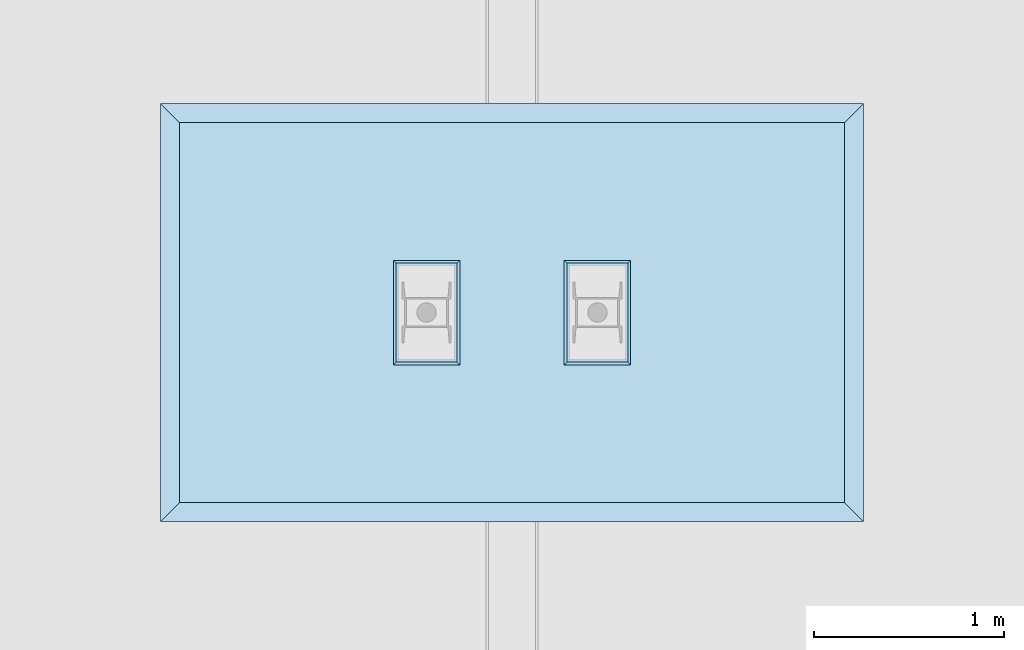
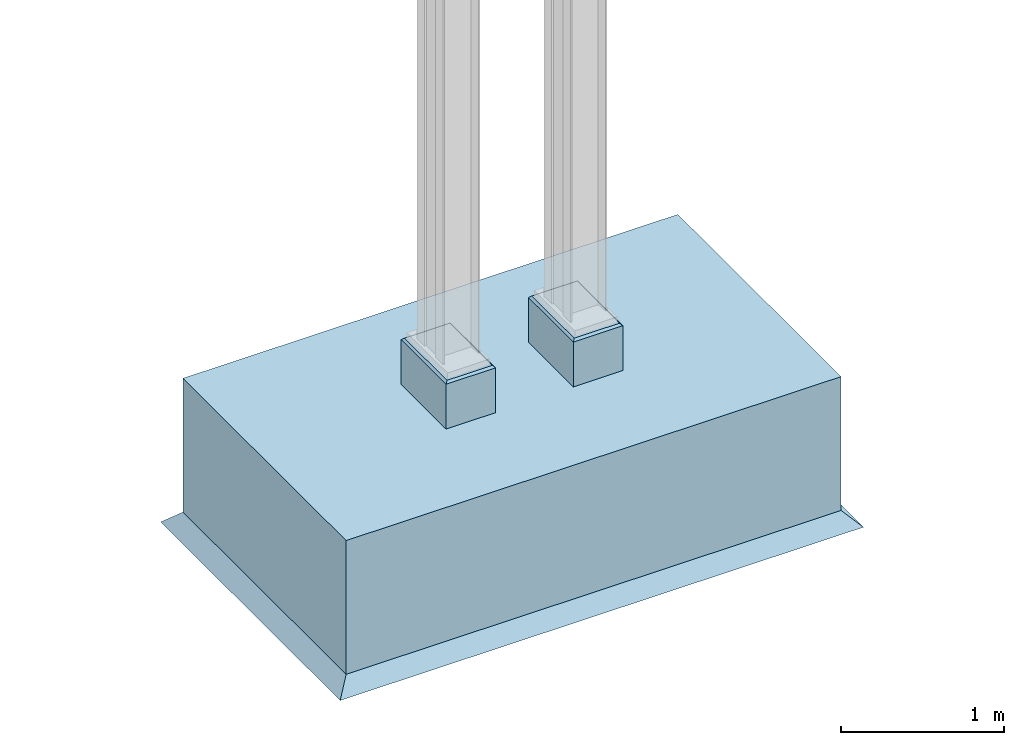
# One storey, incomplete: 1 slab.
"""IFC4 building model written with IfcOpenShell, lengths in metres."""

import ifcopenshell
import ifcopenshell.guid

model = None  # the IFC model being written
_history = None  # IfcOwnerHistory: only IFC2X3 demands one
_inside = {}  # id of a spatial element -> (the spatial element, [elements in it])
_under = {}  # id of a project, library or spatial element -> (it, [spatial elements below it])
_declared = {}  # id of a project -> (the project, [libraries it declares])
_typed = {}  # id of a type object -> (the type object, [elements of that type])
_made_of = {}  # id of a material, layer set ... -> (it, [elements and type objects made of it])


def new_model(schema):
    """Start an empty IFC model of exactly this schema.

    Asked for "IFC4X3", IfcOpenShell would pick the latest addendum, in which some entities
    have other attributes; the version numbers below select the first issue.
    IFC2X3 requires an IfcOwnerHistory on every rooted entity: one is made here for all.
    """
    global model, _history
    if schema == "IFC4X3":
        model = ifcopenshell.file(schema_version=(4, 3, 0, 0))
    else:
        model = ifcopenshell.file(schema=schema)
    _inside.clear()
    _under.clear()
    _declared.clear()
    _typed.clear()
    _made_of.clear()
    _history = None
    if model.schema == "IFC2X3":
        org = make("IfcOrganization", Name="unknown")
        user = make(
            "IfcPersonAndOrganization",
            ThePerson=make("IfcPerson", FamilyName="unknown"),
            TheOrganization=org,
        )
        app = make(
            "IfcApplication",
            ApplicationDeveloper=org,
            Version="unknown",
            ApplicationFullName="unknown",
            ApplicationIdentifier="unknown",
        )
        _history = make(
            "IfcOwnerHistory",
            OwningUser=user,
            OwningApplication=app,
            ChangeAction="ADDED",
            CreationDate=0,
        )
    return model


def make(cls, **values):
    """One entity of the class cls with the attributes given. An attribute that is None is left unset."""
    return model.create_entity(
        cls, **{name: value for name, value in values.items() if value is not None}
    )


def entity(cls, *values):
    """Any entity or typed value of the class cls, its attributes in the order of the schema. None: left unset."""
    e = model.create_entity(cls)
    for i, value in enumerate(values):
        if value is not None:
            e[i] = value
    return e


def rooted(cls, **values):
    """An entity with a GlobalId (a new one), such as an element, a storey or a relation."""
    return make(cls, GlobalId=ifcopenshell.guid.new(), OwnerHistory=_history, **values)


def si_unit(unit_type, name, prefix=None):
    """IfcSIUnit, for example si_unit("LENGTHUNIT", "METRE", prefix="MILLI")."""
    return make("IfcSIUnit", UnitType=unit_type, Prefix=prefix, Name=name)


def converted_unit(unit_type, name, factor, base, dimensions=None, offset=None):
    """IfcConversionBasedUnit, such as the inch: factor (a typed value) times the base unit."""
    return make(
        "IfcConversionBasedUnit"
        if offset is None
        else "IfcConversionBasedUnitWithOffset",
        ConversionOffset=offset,
        Dimensions=None
        if dimensions is None
        else entity("IfcDimensionalExponents", *dimensions),
        UnitType=unit_type,
        Name=name,
        ConversionFactor=make(
            "IfcMeasureWithUnit", ValueComponent=factor, UnitComponent=base
        ),
    )


def assignment(units):
    """IfcUnitAssignment: the units of a project."""
    return None if units is None else make("IfcUnitAssignment", Units=units)


def point(xyz):
    """IfcCartesianPoint."""
    return None if xyz is None else make("IfcCartesianPoint", Coordinates=xyz)


def direction(xyz):
    """IfcDirection."""
    return None if xyz is None else make("IfcDirection", DirectionRatios=xyz)


def frame(location, z_axis=None, x_axis=None):
    """IfcAxis2Placement3D, a coordinate frame: its origin and axes. An axis left out is left unset."""
    return make(
        "IfcAxis2Placement3D",
        Location=point(location),
        Axis=direction(z_axis),
        RefDirection=direction(x_axis),
    )


def origin():
    """The frame at (0, 0, 0) with its axes left unset."""
    return frame((0.0, 0.0, 0.0))


def place(relative_to, where):
    """IfcLocalPlacement: puts the frame where relative to a parent placement (None: the world)."""
    return make(
        "IfcLocalPlacement", PlacementRelTo=relative_to, RelativePlacement=where
    )


def context(
    kind, dimensions, precision=None, world=None, true_north=None, identifier=None
):
    """IfcGeometricRepresentationContext, for example the 3D "Model" context."""
    return make(
        "IfcGeometricRepresentationContext",
        ContextIdentifier=identifier,
        ContextType=kind,
        CoordinateSpaceDimension=dimensions,
        Precision=precision,
        WorldCoordinateSystem=world,
        TrueNorth=true_north,
    )


def subcontext(parent, identifier, kind, view, scale=None):
    """IfcGeometricRepresentationSubContext, for example "Body" below "Model"."""
    return make(
        "IfcGeometricRepresentationSubContext",
        ContextIdentifier=identifier,
        ContextType=kind,
        ParentContext=parent,
        TargetScale=scale,
        TargetView=view,
    )


def project(units=None, contexts=None):
    """IfcProject with its units and contexts."""
    return rooted(
        "IfcProject",
        Name="project",
        RepresentationContexts=contexts,
        UnitsInContext=assignment(units),
    )


def spatial(cls, under=None, at=None, **own):
    """A site, building, storey or space (cls), placed at a placement, below another one or the project."""
    s = rooted(cls, ObjectPlacement=at, **own)
    if under is not None:
        _under.setdefault(under.id(), (under, []))[1].append(s)
    return s


def point_list(points):
    """IfcCartesianPointList2D or 3D."""
    cls = (
        "IfcCartesianPointList2D" if len(points[0]) == 2 else "IfcCartesianPointList3D"
    )
    return make(cls, CoordList=points)


def polygons(points, faces, closed=None, point_numbers=None):
    """IfcPolygonalFaceSet: a face is its outer loop, then its inner loops; points numbered from 1."""
    made = []
    for loops in faces:
        if len(loops) == 1:
            made.append(make("IfcIndexedPolygonalFace", CoordIndex=loops[0]))
        else:
            made.append(
                make(
                    "IfcIndexedPolygonalFaceWithVoids",
                    CoordIndex=loops[0],
                    InnerCoordIndices=loops[1:],
                )
            )
    return make(
        "IfcPolygonalFaceSet",
        Coordinates=point_list(points),
        Closed=closed,
        Faces=made,
        PnIndex=point_numbers,
    )


def shape(context_of_items, identifier, shape_type, items):
    """IfcShapeRepresentation: the items that make up one representation, for example the "Body"."""
    return make(
        "IfcShapeRepresentation",
        ContextOfItems=context_of_items,
        RepresentationIdentifier=identifier,
        RepresentationType=shape_type,
        Items=items,
    )


def material(Name=None, Category=None):
    """IfcMaterial."""
    return make("IfcMaterial", Name=Name, Category=Category)


def made_of(thing, what):
    """Note that an element or type object is made of a material, layer set ...; save() writes the relation."""
    if what is not None:
        _made_of.setdefault(what.id(), (what, []))[1].append(thing)
    return thing


def type_object(cls, material=None, **own):
    """A type object (cls), such as IfcWallType, which elements share."""
    return made_of(rooted(cls, **own), material)


def element(
    cls,
    number,
    at=None,
    inside=None,
    cuts=None,
    type_object=None,
    material=None,
    context=None,
    identifier="Body",
    shape_type=None,
    held_by="IfcProductDefinitionShape",
    body=None,
    shapes=None,
    **own,
):
    """One element of the class cls, such as IfcWall. Its Tag is "e" and its number.

    at: its placement. inside: the storey or other place that contains it. cuts: it is an
    opening in that element (IfcRelVoidsElement). A single representation is given by context,
    identifier, shape_type and body (its items); several are given by shapes. held_by: the class
    of the entity that holds the representations. save() writes the other relations.
    """
    e = rooted(cls, Tag="e%d" % number, ObjectPlacement=at, **own)
    if body is not None:
        shapes = [shape(context, identifier, shape_type, body)]
    if shapes is not None:
        e.Representation = make(held_by, Representations=shapes)
    if inside is not None:
        _inside.setdefault(inside.id(), (inside, []))[1].append(e)
    if cuts is not None:
        rooted(
            "IfcRelVoidsElement", RelatingBuildingElement=cuts, RelatedOpeningElement=e
        )
    if type_object is not None:
        _typed.setdefault(type_object.id(), (type_object, []))[1].append(e)
    return made_of(e, material)


def aggregate(whole, parts):
    """IfcRelAggregates: a whole, such as a stair, and the parts it consists of."""
    return rooted("IfcRelAggregates", RelatingObject=whole, RelatedObjects=parts)


def save(model, path):
    """Write the relations noted so far, then the file.

    IfcRelAggregates (storeys below a building ...), IfcRelContainedInSpatialStructure (elements
    in a storey), IfcRelDefinesByType, IfcRelAssociatesMaterial and IfcRelDeclares: one each for
    every whole, place, type object, material and project.
    """
    for whole, parts in _under.values():
        aggregate(whole, parts)
    for where, things in _inside.values():
        rooted(
            "IfcRelContainedInSpatialStructure",
            RelatedElements=things,
            RelatingStructure=where,
        )
    for kind, things in _typed.values():
        rooted("IfcRelDefinesByType", RelatedObjects=things, RelatingType=kind)
    for what, things in _made_of.values():
        rooted("IfcRelAssociatesMaterial", RelatedObjects=things, RelatingMaterial=what)
    for by, libraries in _declared.values():
        rooted("IfcRelDeclares", RelatingContext=by, RelatedDefinitions=libraries)
    model.write(path)


model = new_model("IFC4")

# Units and contexts
model_context = context("Model", 3, precision=1e-05, world=origin(), true_north=direction((6.123031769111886e-17, 1.0)))
body_context = subcontext(model_context, "Body", "Model", "MODEL_VIEW")
ifc_project = project(units=[si_unit("LENGTHUNIT", "METRE"), converted_unit("PLANEANGLEUNIT", "DEGREE", entity("IfcPlaneAngleMeasure", 0.017453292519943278), si_unit("PLANEANGLEUNIT", "RADIAN"), dimensions=[0, 0, 0, 0, 0, 0, 0])], contexts=[model_context])

# Site, building, storey
site_placement = place(None, origin())
site = spatial("IfcSite", under=ifc_project, at=site_placement, Name="Default", CompositionType="ELEMENT")
building_placement = place(site_placement, origin())
building = spatial("IfcBuilding", under=site, at=building_placement, CompositionType="ELEMENT")
storey_placement = place(building_placement, origin())
storey = spatial("IfcBuildingStorey", under=building, at=storey_placement, Name="DB_Bezugshoehe_max_Bahnsteigkante", CompositionType="ELEMENT", Elevation=0.0)

# Slab
ifc_material = material(Name="DB_Ortbeton", Category="DB_Beton")
slab_type = type_object("IfcSlabType", Name="DB_Systemdach_Fundament_Typ1:Variante1", PredefinedType="BASESLAB", material=ifc_material)
slab_placement = place(storey_placement, origin())
element("IfcSlab", 1, at=slab_placement, inside=storey, type_object=slab_type, Name="DB_Systemdach_Fundament_Typ1:Variante1", ObjectType="DB_Systemdach_Fundament_Typ1:Variante1", PredefinedType="BASESLAB", context=body_context, shape_type="Tessellation", body=[
    polygons([(1.7500000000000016, 1.000000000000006, -0.25), (-1.7499999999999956, 1.000000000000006, -0.25), (-1.7499999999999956, -0.9999999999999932, -0.25), (1.7500000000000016, -0.9999999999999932, -0.25), (1.7500000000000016, 1.000000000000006, -1.2499999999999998), (1.7500000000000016, -0.9999999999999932, -1.2499999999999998), (-1.7499999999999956, -0.9999999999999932, -1.2499999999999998), (-1.7499999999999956, 1.000000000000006, -1.2499999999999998)], [[[1, 2, 3, 4]], [[5, 6, 7, 8]], [[2, 1, 5, 8]], [[3, 2, 8, 7]], [[4, 3, 7, 6]], [[1, 4, 6, 5]]], closed=True),
    polygons([(1.7500000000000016, 1.000000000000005, -1.2499999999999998), (-1.7499999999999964, 1.000000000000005, -1.2499999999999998), (-1.7499999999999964, -0.9999999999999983, -1.2499999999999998), (1.7500000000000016, -0.9999999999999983, -1.2499999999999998), (1.8500000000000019, 1.100000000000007, -1.3499999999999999), (1.8500000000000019, -1.1000000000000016, -1.3499999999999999), (-1.8500000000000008, -1.1000000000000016, -1.3499999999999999), (-1.8500000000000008, 1.100000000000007, -1.3499999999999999)], [[[1, 2, 3, 4]], [[5, 6, 7, 8]], [[5, 8, 2, 1]], [[8, 7, 3, 2]], [[7, 6, 4, 3]], [[6, 5, 1, 4]]], closed=True),
    polygons([(0.6249999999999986, 0.2749999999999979, 0.08500000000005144), (0.27499999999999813, 0.2749999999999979, 0.08500000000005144), (0.27499999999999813, -0.2750000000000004, 0.08500000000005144), (0.6249999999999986, -0.2750000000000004, 0.08500000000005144), (0.6249999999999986, 0.2749999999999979, -0.24999999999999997), (0.27499999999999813, 0.2749999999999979, -0.24999999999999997), (0.27499999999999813, -0.2750000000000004, -0.24999999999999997), (0.6249999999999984, -0.2750000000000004, -0.24999999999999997)], [[[1, 2, 3, 4]], [[2, 1, 5, 6]], [[3, 2, 6, 7]], [[4, 3, 7, 8]], [[1, 4, 8, 5]], [[5, 8, 7, 6]]], closed=True),
    polygons([(-0.2749999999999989, 0.2749999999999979, -0.24999999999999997), (-0.2749999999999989, -0.2750000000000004, -0.24999999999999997), (-0.6249999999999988, -0.2750000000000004, -0.24999999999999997), (-0.624999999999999, 0.27499999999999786, -0.24999999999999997), (-0.624999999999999, 0.27499999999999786, 0.08500000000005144), (-0.2749999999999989, 0.2749999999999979, 0.08500000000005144), (-0.6249999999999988, -0.2750000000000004, 0.08500000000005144), (-0.2749999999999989, -0.2750000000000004, 0.08500000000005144)], [[[1, 2, 3, 4]], [[5, 6, 1, 4]], [[7, 5, 4, 3]], [[8, 7, 3, 2]], [[6, 8, 2, 1]], [[6, 5, 7, 8]]], closed=True),
    polygons([(0.2899999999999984, 0.2599999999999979, 0.0999999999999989), (0.2899999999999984, -0.26000000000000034, 0.0999999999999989), (0.6099999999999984, -0.26000000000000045, 0.09999999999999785), (0.6099999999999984, 0.25999999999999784, 0.09999999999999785), (0.2750000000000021, 0.2749999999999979, 0.08500000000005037), (0.6249999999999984, 0.2749999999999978, 0.08500000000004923), (0.6249999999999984, -0.27500000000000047, 0.08500000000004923), (0.2750000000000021, -0.2750000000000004, 0.08500000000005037)], [[[1, 2, 3, 4]], [[5, 6, 7, 8]], [[6, 5, 1, 4]], [[7, 6, 4, 3]], [[8, 7, 3, 2]], [[5, 8, 2, 1]]], closed=True),
    polygons([(-0.6100000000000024, 0.2599999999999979, 0.1000000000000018), (-0.6100000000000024, -0.26000000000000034, 0.1000000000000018), (-0.2900000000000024, -0.26000000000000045, 0.10000000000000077), (-0.2900000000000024, 0.25999999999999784, 0.10000000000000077), (-0.6249999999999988, 0.2749999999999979, 0.08500000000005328), (-0.2750000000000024, 0.2749999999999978, 0.08500000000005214), (-0.27500000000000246, -0.27500000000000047, 0.08500000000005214), (-0.6249999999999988, -0.2750000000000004, 0.08500000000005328)], [[[1, 2, 3, 4]], [[5, 6, 7, 8]], [[6, 5, 1, 4]], [[7, 6, 4, 3]], [[8, 7, 3, 2]], [[5, 8, 2, 1]]], closed=True),
])

save(model, "model.ifc")
